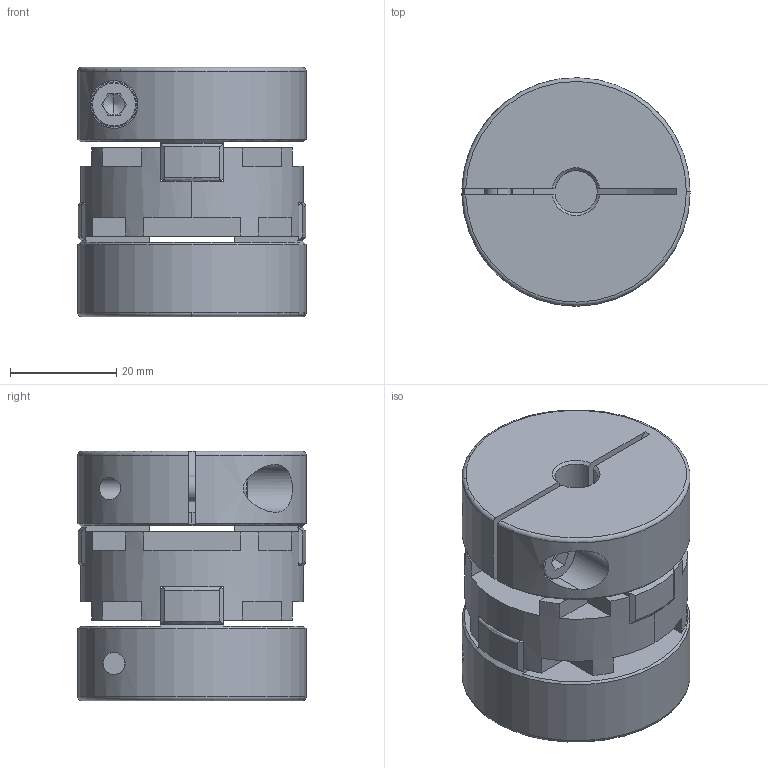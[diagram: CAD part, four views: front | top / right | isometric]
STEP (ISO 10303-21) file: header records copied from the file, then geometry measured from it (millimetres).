
FILE_DESCRIPTION (( 'STEP AP203' ), '1' );
FILE_NAME ('SOHM-43C-8X19_203.STEP', '2013-01-28T03:07:44', ( '' ), ( '' ), 'SwSTEP 2.0', 'SolidWorks 2012', '' );
FILE_SCHEMA (( 'CONFIG_CONTROL_DESIGN' ));
Length unit declared in the file: millimetre
Products named in the file (1): SOHM-43C-8X19_203
Bounding box: 43 x 43 x 47 mm (x, y, z)
Volume: 51107.7 mm3; surface area: 18024.1 mm2
Topology: 1 solids, 1 shells, 244 faces, 697 edges, 443 vertices
Faces by surface type: plane 148, cylinder 49, torus 24, cone 23
Entity records: 8435 total; most frequent: CARTESIAN_POINT 1976, ORIENTED_EDGE 1386, DIRECTION 1300, EDGE_CURVE 693, AXIS2_PLACEMENT_3D 445, VERTEX_POINT 443, VECTOR 410, LINE 410
